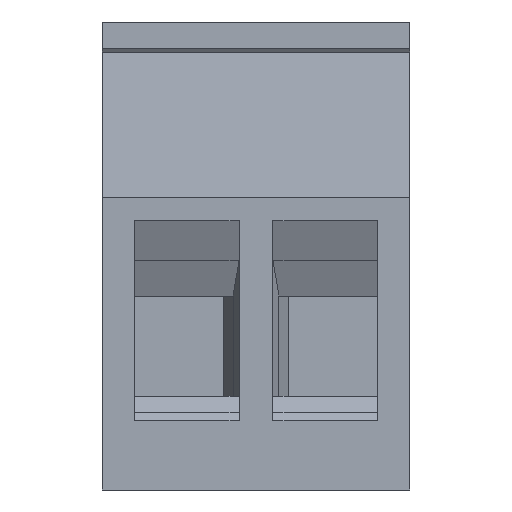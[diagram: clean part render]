
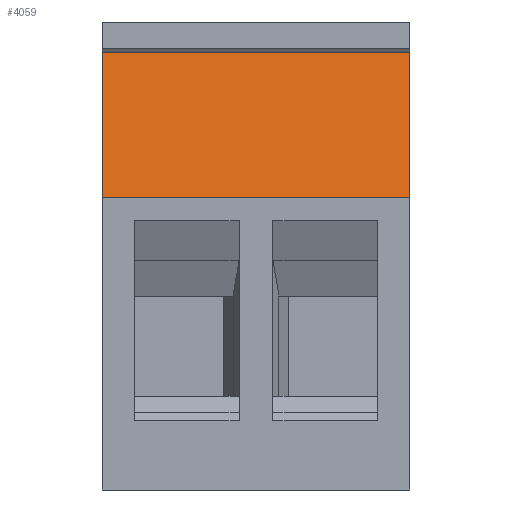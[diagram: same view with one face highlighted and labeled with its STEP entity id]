
A CAD part, front view. The second image highlights one B-rep face of the part: STEP entity #4059.
In plain terms, the highlighted planar face has unit normal (0, -0.985, 0.174).
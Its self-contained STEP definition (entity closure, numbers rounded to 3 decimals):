
#32 = PLANE('',#33);
#33 = AXIS2_PLACEMENT_3D('',#34,#35,#36);
#34 = CARTESIAN_POINT('',(0.,0.,0.));
#35 = DIRECTION('',(1.,0.,0.));
#36 = DIRECTION('',(0.,0.,-1.));
#282 = VERTEX_POINT('',#283);
#283 = CARTESIAN_POINT('',(0.,-4.31,5.573));
#297 = PLANE('',#298);
#298 = AXIS2_PLACEMENT_3D('',#299,#300,#301);
#299 = CARTESIAN_POINT('',(0.,-4.65,5.7));
#300 = DIRECTION('',(0.,-0.35,-0.937));
#301 = DIRECTION('',(0.,0.937,-0.35));
#309 = EDGE_CURVE('',#282,#310,#312,.T.);
#310 = VERTEX_POINT('',#311);
#311 = CARTESIAN_POINT('',(0.,-5.143,0.85));
#312 = SURFACE_CURVE('',#313,(#317,#324),.PCURVE_S1.);
#313 = LINE('',#314,#315);
#314 = CARTESIAN_POINT('',(0.,-4.31,5.573));
#315 = VECTOR('',#316,1.);
#316 = DIRECTION('',(0.,-0.174,-0.985));
#317 = PCURVE('',#32,#318);
#318 = DEFINITIONAL_REPRESENTATION('',(#319),#323);
#319 = LINE('',#320,#321);
#320 = CARTESIAN_POINT('',(-5.573,-4.31));
#321 = VECTOR('',#322,1.);
#322 = DIRECTION('',(0.985,-0.174));
#323 = ( GEOMETRIC_REPRESENTATION_CONTEXT(2) 
PARAMETRIC_REPRESENTATION_CONTEXT() REPRESENTATION_CONTEXT('2D SPACE',''
  ) );
#324 = PCURVE('',#325,#330);
#325 = PLANE('',#326);
#326 = AXIS2_PLACEMENT_3D('',#327,#328,#329);
#327 = CARTESIAN_POINT('',(0.,-4.31,5.573));
#328 = DIRECTION('',(0.,-0.985,0.174));
#329 = DIRECTION('',(0.,-0.174,-0.985));
#330 = DEFINITIONAL_REPRESENTATION('',(#331),#335);
#331 = LINE('',#332,#333);
#332 = CARTESIAN_POINT('',(0.,0.));
#333 = VECTOR('',#334,1.);
#334 = DIRECTION('',(1.,0.));
#335 = ( GEOMETRIC_REPRESENTATION_CONTEXT(2) 
PARAMETRIC_REPRESENTATION_CONTEXT() REPRESENTATION_CONTEXT('2D SPACE',''
  ) );
#353 = PLANE('',#354);
#354 = AXIS2_PLACEMENT_3D('',#355,#356,#357);
#355 = CARTESIAN_POINT('',(0.,-5.143,0.85));
#356 = DIRECTION('',(0.,0.,1.));
#357 = DIRECTION('',(0.,-1.,0.));
#575 = PLANE('',#576);
#576 = AXIS2_PLACEMENT_3D('',#577,#578,#579);
#577 = CARTESIAN_POINT('',(10.,0.,0.));
#578 = DIRECTION('',(1.,0.,0.));
#579 = DIRECTION('',(0.,0.,-1.));
#4014 = EDGE_CURVE('',#310,#4015,#4017,.T.);
#4015 = VERTEX_POINT('',#4016);
#4016 = CARTESIAN_POINT('',(10.,-5.143,0.85));
#4017 = SURFACE_CURVE('',#4018,(#4022,#4029),.PCURVE_S1.);
#4018 = LINE('',#4019,#4020);
#4019 = CARTESIAN_POINT('',(0.,-5.143,0.85));
#4020 = VECTOR('',#4021,1.);
#4021 = DIRECTION('',(1.,0.,0.));
#4022 = PCURVE('',#353,#4023);
#4023 = DEFINITIONAL_REPRESENTATION('',(#4024),#4028);
#4024 = LINE('',#4025,#4026);
#4025 = CARTESIAN_POINT('',(0.,0.));
#4026 = VECTOR('',#4027,1.);
#4027 = DIRECTION('',(0.,1.));
#4028 = ( GEOMETRIC_REPRESENTATION_CONTEXT(2) 
PARAMETRIC_REPRESENTATION_CONTEXT() REPRESENTATION_CONTEXT('2D SPACE',''
  ) );
#4029 = PCURVE('',#325,#4030);
#4030 = DEFINITIONAL_REPRESENTATION('',(#4031),#4035);
#4031 = LINE('',#4032,#4033);
#4032 = CARTESIAN_POINT('',(4.796,0.));
#4033 = VECTOR('',#4034,1.);
#4034 = DIRECTION('',(0.,1.));
#4035 = ( GEOMETRIC_REPRESENTATION_CONTEXT(2) 
PARAMETRIC_REPRESENTATION_CONTEXT() REPRESENTATION_CONTEXT('2D SPACE',''
  ) );
#4059 = ADVANCED_FACE('',(#4060),#325,.T.);
#4060 = FACE_BOUND('',#4061,.F.);
#4061 = EDGE_LOOP('',(#4062,#4085,#4106,#4107));
#4062 = ORIENTED_EDGE('',*,*,#4063,.T.);
#4063 = EDGE_CURVE('',#282,#4064,#4066,.T.);
#4064 = VERTEX_POINT('',#4065);
#4065 = CARTESIAN_POINT('',(10.,-4.31,5.573));
#4066 = SURFACE_CURVE('',#4067,(#4071,#4078),.PCURVE_S1.);
#4067 = LINE('',#4068,#4069);
#4068 = CARTESIAN_POINT('',(0.,-4.31,5.573));
#4069 = VECTOR('',#4070,1.);
#4070 = DIRECTION('',(1.,0.,0.));
#4071 = PCURVE('',#325,#4072);
#4072 = DEFINITIONAL_REPRESENTATION('',(#4073),#4077);
#4073 = LINE('',#4074,#4075);
#4074 = CARTESIAN_POINT('',(0.,0.));
#4075 = VECTOR('',#4076,1.);
#4076 = DIRECTION('',(0.,1.));
#4077 = ( GEOMETRIC_REPRESENTATION_CONTEXT(2) 
PARAMETRIC_REPRESENTATION_CONTEXT() REPRESENTATION_CONTEXT('2D SPACE',''
  ) );
#4078 = PCURVE('',#297,#4079);
#4079 = DEFINITIONAL_REPRESENTATION('',(#4080),#4084);
#4080 = LINE('',#4081,#4082);
#4081 = CARTESIAN_POINT('',(0.363,0.));
#4082 = VECTOR('',#4083,1.);
#4083 = DIRECTION('',(0.,1.));
#4084 = ( GEOMETRIC_REPRESENTATION_CONTEXT(2) 
PARAMETRIC_REPRESENTATION_CONTEXT() REPRESENTATION_CONTEXT('2D SPACE',''
  ) );
#4085 = ORIENTED_EDGE('',*,*,#4086,.T.);
#4086 = EDGE_CURVE('',#4064,#4015,#4087,.T.);
#4087 = SURFACE_CURVE('',#4088,(#4092,#4099),.PCURVE_S1.);
#4088 = LINE('',#4089,#4090);
#4089 = CARTESIAN_POINT('',(10.,-4.31,5.573));
#4090 = VECTOR('',#4091,1.);
#4091 = DIRECTION('',(0.,-0.174,-0.985));
#4092 = PCURVE('',#325,#4093);
#4093 = DEFINITIONAL_REPRESENTATION('',(#4094),#4098);
#4094 = LINE('',#4095,#4096);
#4095 = CARTESIAN_POINT('',(0.,10.));
#4096 = VECTOR('',#4097,1.);
#4097 = DIRECTION('',(1.,0.));
#4098 = ( GEOMETRIC_REPRESENTATION_CONTEXT(2) 
PARAMETRIC_REPRESENTATION_CONTEXT() REPRESENTATION_CONTEXT('2D SPACE',''
  ) );
#4099 = PCURVE('',#575,#4100);
#4100 = DEFINITIONAL_REPRESENTATION('',(#4101),#4105);
#4101 = LINE('',#4102,#4103);
#4102 = CARTESIAN_POINT('',(-5.573,-4.31));
#4103 = VECTOR('',#4104,1.);
#4104 = DIRECTION('',(0.985,-0.174));
#4105 = ( GEOMETRIC_REPRESENTATION_CONTEXT(2) 
PARAMETRIC_REPRESENTATION_CONTEXT() REPRESENTATION_CONTEXT('2D SPACE',''
  ) );
#4106 = ORIENTED_EDGE('',*,*,#4014,.F.);
#4107 = ORIENTED_EDGE('',*,*,#309,.F.);
